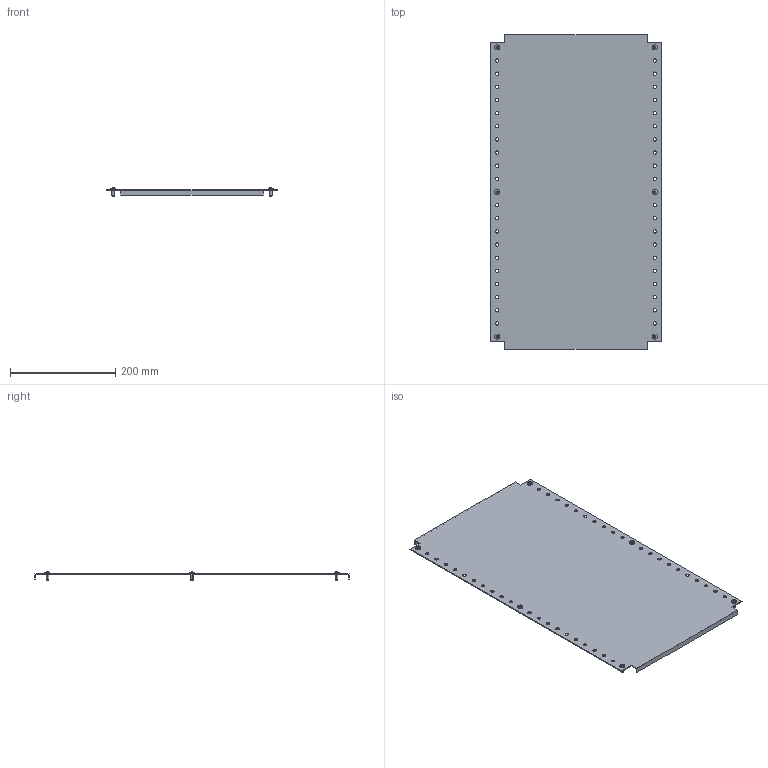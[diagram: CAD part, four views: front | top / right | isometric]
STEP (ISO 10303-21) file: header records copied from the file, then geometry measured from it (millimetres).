
FILE_DESCRIPTION (( 'STEP AP203' ), '1' );
FILE_NAME ('R6MPP06400.STEP', '2025-05-16T08:15:19', ( '' ), ( '' ), 'SwSTEP 2.0', 'SolidWorks 2022', '' );
FILE_SCHEMA (( 'CONFIG_CONTROL_DESIGN' ));
Length unit declared in the file: millimetre
Products named in the file (3): R6MPP06400; M5x12 DIN 7500 C Torx Zinc_stright; RB.3313.00.00.0 simple_-15
Assembly tree (7 placements, depth 2):
  R6MPP06400
    RB.3313.00.00.0 simple_-15
    M5x12 DIN 7500 C Torx Zinc_stright  x6
Bounding box: 325 x 598 x 15.56 mm (x, y, z)
Volume: 354683.6 mm3; surface area: 398919.2 mm2
Topology: 7 solids, 7 shells, 262 faces, 648 edges, 394 vertices
Faces by surface type: cylinder 116, plane 74, cone 24, torus 24, bspline 12, sphere 12
Entity records: 5487 total; most frequent: CARTESIAN_POINT 1019, DIRECTION 898, ORIENTED_EDGE 792, EDGE_CURVE 396, AXIS2_PLACEMENT_3D 362, VERTEX_POINT 259, EDGE_LOOP 235, CIRCLE 212
